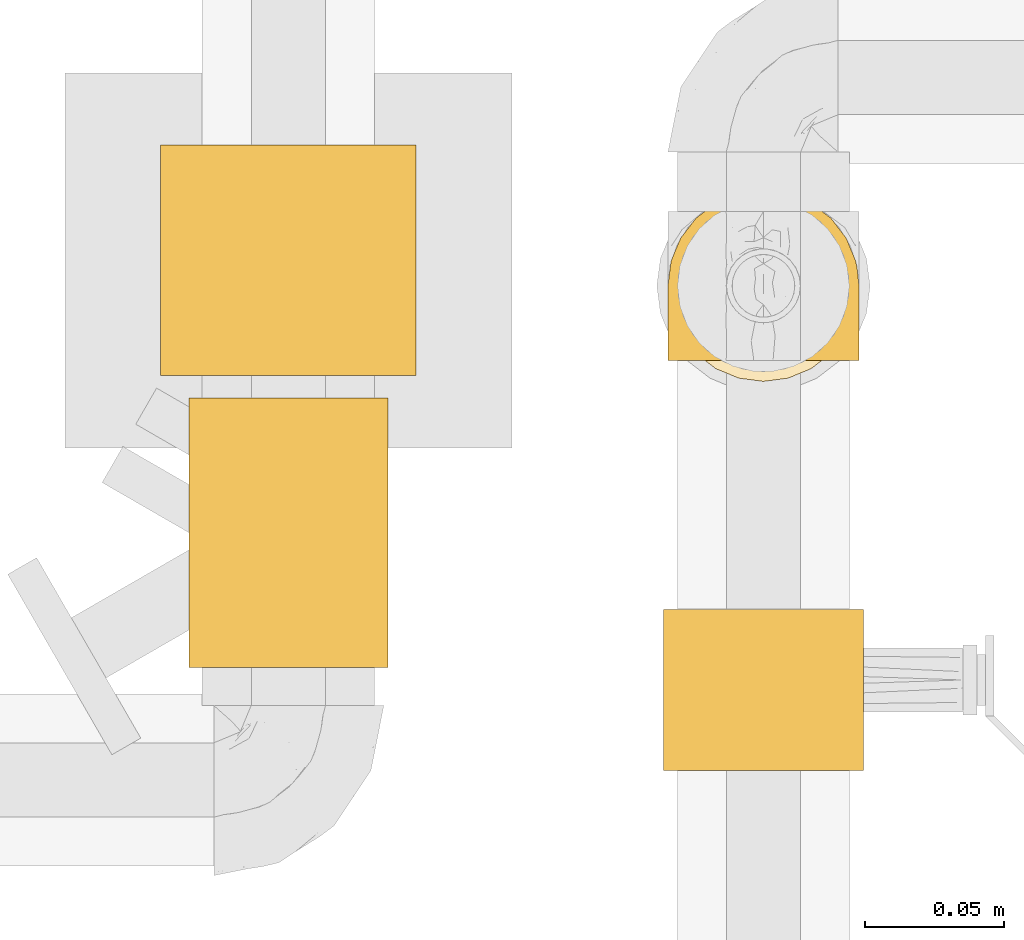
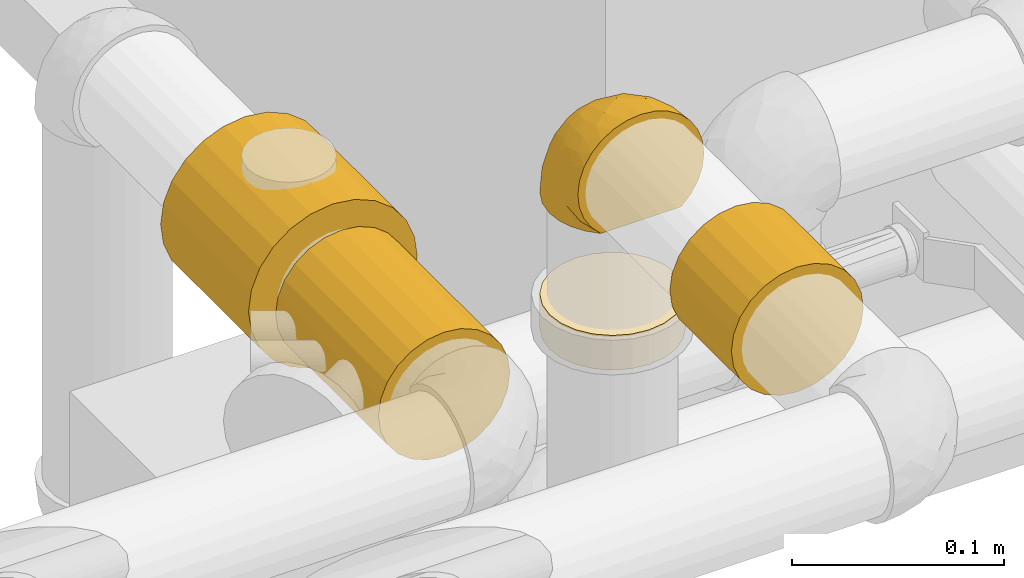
# One storey, part 4 of 13: 5 coverings.
"""IFC2X3 building model written with IfcOpenShell, lengths in millimetres."""

from ifc_helpers import new_model, entity, si_unit, converted_unit, derived_unit, direction, frame, origin_with_axes, place, context, subcontext, project, spatial, open_shell, surface_model, source, transform, mapped, element, save


model = new_model("IFC2X3")

# Units and contexts
model_context = context("Model", 3, precision=0.01, world=frame((0.0, 4.29681676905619e-09, 0.0)), true_north=direction((4.01073788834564e-13, 1.0)))
plan_context = context("Plan", 3, precision=0.01, world=frame((0.0, 4.29681676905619e-09, 0.0)), true_north=direction((4.01073788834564e-13, 1.0)))
body_context = subcontext(model_context, "Body", "Model", "MODEL_VIEW")
ifc_project = project(units=[converted_unit("PLANEANGLEUNIT", "DEGREE", entity("IfcPositiveLengthMeasure", 0.0174532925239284), si_unit("PLANEANGLEUNIT", "RADIAN"), dimensions=[0, 0, 0, 0, 0, 0, 0]), si_unit("AREAUNIT", "SQUARE_METRE"), si_unit("LENGTHUNIT", "METRE", prefix="MILLI"), si_unit("MASSUNIT", "GRAM", prefix="KILO"), si_unit("POWERUNIT", "WATT"), si_unit("PRESSUREUNIT", "PASCAL"), si_unit("FORCEUNIT", "NEWTON", prefix="KILO"), si_unit("ELECTRICVOLTAGEUNIT", "VOLT"), si_unit("ELECTRICCURRENTUNIT", "AMPERE"), si_unit("THERMODYNAMICTEMPERATUREUNIT", "DEGREE_CELSIUS"), si_unit("TIMEUNIT", "SECOND"), si_unit("VOLUMEUNIT", "CUBIC_METRE"), derived_unit("LINEARVELOCITYUNIT", [(si_unit("LENGTHUNIT", "METRE"), 1), (si_unit("TIMEUNIT", "SECOND"), -1)]), derived_unit("VOLUMETRICFLOWRATEUNIT", [(si_unit("VOLUMEUNIT", "CUBIC_METRE"), 1), (si_unit("TIMEUNIT", "SECOND"), -1)]), derived_unit("THERMALTRANSMITTANCEUNIT", [(si_unit("POWERUNIT", "WATT"), 1), (si_unit("THERMODYNAMICTEMPERATUREUNIT", "KELVIN"), -1), (si_unit("AREAUNIT", "SQUARE_METRE"), -1)]), derived_unit("SOUNDPRESSUREUNIT", [(si_unit("PRESSUREUNIT", "PASCAL"), 1)])], contexts=[model_context, plan_context])

# Site, building, storey
site_placement = place(None, frame((0.0, -4.29681676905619e-09, 0.0), z_axis=(0.0, 0.0, 1.0), x_axis=(1.0, 0.0, 0.0)))
site = spatial("IfcSite", under=ifc_project, at=site_placement, Name="ENGM", CompositionType="ELEMENT")
building_placement = place(site_placement, frame((0.0, 4.29681676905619e-09, 0.0), z_axis=(0.0, 0.0, 1.0), x_axis=(1.0, 0.0, 0.0)))
building = spatial("IfcBuilding", under=site, at=building_placement, Name="TI", CompositionType="ELEMENT")
storey_placement = place(building_placement, frame((0.0, 0.0, 210900.0), z_axis=(0.0, 0.0, 1.0), x_axis=(1.0, 0.0, 0.0)))
storey = spatial("IfcBuildingStorey", under=building, at=storey_placement, Name="Nivå F", CompositionType="ELEMENT", Elevation=210900.0)

# Coverings
shared_shape_1 = source(origin_with_axes(), body_context, "Body", "SurfaceModel", [
    surface_model("IfcShellBasedSurfaceModel", [(29.0, 34.77333, -9.31749), (29.0, 9.31749, -34.77333), (29.0, 18.0, -31.17691), (29.0, 25.45584, -25.45584), (29.0, -9.31749, -34.77333), (29.0, 31.17691, -18.0), (29.0, -36.0, 0.0), (29.0, -25.45584, -25.45584), (29.0, -18.0, -31.17691), (29.0, 0.0, -36.0), (29.0, -34.77333, -9.31749), (29.0, -31.17691, -18.0), (29.0, 36.0, 0.0), (29.0, 34.77333, 9.31749), (29.0, 31.17691, 18.0), (29.0, 0.0, 36.0), (29.0, 25.45584, 25.45584), (29.0, 18.0, 31.17691), (29.0, 9.31749, 34.77333), (29.0, -34.77333, 9.31749), (29.0, -18.0, 31.17691), (29.0, -31.17691, 18.0), (29.0, -9.31749, 34.77333), (29.0, -25.45584, 25.45584), (-29.0, 0.0, 36.0), (-29.0, 9.31749, 34.77333), (-29.0, 18.0, 31.17691), (-29.0, -34.77333, -9.31749), (-29.0, -9.31749, 34.77333), (-29.0, 31.17691, 18.0), (-29.0, 25.45584, 25.45584), (-29.0, -18.0, 31.17691), (-29.0, -31.17691, 18.0), (-29.0, -25.45584, 25.45584), (-29.0, -34.77333, 9.31749), (-29.0, -36.0, 0.0), (-29.0, 36.0, 0.0), (-29.0, 34.77333, 9.31749), (-29.0, 34.77333, -9.31749), (-29.0, 9.31749, -34.77333), (-29.0, 31.17691, -18.0), (-29.0, 18.0, -31.17691), (-29.0, 25.45584, -25.45584), (-29.0, -9.31749, -34.77333), (-29.0, -25.45584, -25.45584), (-29.0, -31.17691, -18.0), (-29.0, -18.0, -31.17691), (-29.0, 0.0, -36.0)], [open_shell([[[0, 1, 2]], [[0, 2, 3]], [[1, 0, 4]], [[0, 3, 5]], [[0, 6, 4]], [[4, 7, 8]], [[4, 9, 1]], [[7, 10, 11]], [[10, 7, 4]], [[4, 6, 10]], [[0, 12, 13]], [[6, 0, 14]], [[15, 14, 16]], [[17, 18, 15]], [[17, 15, 16]], [[6, 14, 15]], [[19, 20, 21]], [[22, 19, 6]], [[21, 20, 23]], [[20, 19, 22]], [[6, 15, 22]], [[14, 0, 13]], [[24, 25, 26]], [[27, 28, 24]], [[27, 24, 26]], [[29, 26, 30]], [[26, 29, 27]], [[31, 32, 33]], [[34, 31, 28]], [[31, 34, 32]], [[35, 34, 27]], [[27, 34, 28]], [[36, 29, 37]], [[27, 29, 38]], [[39, 38, 40]], [[41, 39, 40]], [[41, 40, 42]], [[43, 38, 39]], [[27, 44, 45]], [[44, 27, 43]], [[44, 43, 46]], [[27, 38, 43]], [[39, 47, 43]], [[38, 29, 36]], [[13, 37, 29]], [[14, 29, 30]], [[36, 37, 12]], [[12, 37, 13]], [[29, 14, 13]], [[30, 16, 14]], [[17, 26, 25]], [[18, 25, 24]], [[16, 26, 17]], [[17, 25, 18]], [[24, 15, 18]], [[26, 16, 30]], [[22, 28, 31]], [[20, 31, 33]], [[24, 28, 15]], [[15, 28, 22]], [[31, 20, 22]], [[33, 23, 20]], [[21, 32, 34]], [[19, 34, 35]], [[23, 32, 21]], [[21, 34, 19]], [[35, 6, 19]], [[32, 23, 33]], [[10, 27, 45]], [[11, 45, 44]], [[35, 27, 6]], [[6, 27, 10]], [[45, 11, 10]], [[44, 7, 11]], [[8, 46, 43]], [[4, 43, 47]], [[7, 46, 8]], [[8, 43, 4]], [[47, 9, 4]], [[46, 7, 44]], [[1, 39, 41]], [[2, 41, 42]], [[47, 39, 9]], [[9, 39, 1]], [[41, 2, 1]], [[42, 3, 2]], [[5, 40, 38]], [[0, 38, 36]], [[3, 40, 5]], [[5, 38, 0]], [[36, 12, 0]], [[40, 3, 42]]])]),
])
covering_1_placement = place(storey_placement, frame((610257.26164, 691274.46347, 2740.0), z_axis=(1.0, 0.0, 0.0), x_axis=(0.0, -1.0, 0.0)))
element("IfcCovering", 1, at=covering_1_placement, inside=storey, Name="BI10T - Cellegummi 18-32 mm kalde rør", PredefinedType="INSULATION", context=body_context, shape_type="MappedRepresentation", body=[
    mapped(shared_shape_1, transform((0.0, 0.0, 0.0), scale=1.0)),
])
shared_shape_2 = source(origin_with_axes(), body_context, "Body", "SurfaceModel", [
    surface_model("IfcShellBasedSurfaceModel", [(48.5, -35.85, 0.0), (48.5, -31.04701, 17.925), (48.5, -34.62844, 9.27866), (48.5, -25.34978, 25.34978), (48.5, -9.27866, 34.62844), (48.5, -17.925, 31.04701), (-48.5, -9.27866, 34.62844), (-48.5, -25.34978, 25.34978), (-48.5, -17.925, 31.04701), (-48.5, -31.04701, 17.925), (-48.5, -35.85, 0.0), (-48.5, -34.62844, 9.27866), (-48.5, 34.62844, -9.27866), (-48.5, 34.62844, 9.27866), (-48.5, 35.85, 0.0), (48.5, 34.62844, 9.27866), (-48.5, 31.04701, 17.925), (48.5, 31.04701, 17.925), (-48.5, 25.34978, 25.34978), (48.5, 35.85, 0.0), (48.5, 25.34978, 25.34978), (48.5, 17.925, 31.04701), (-48.5, 17.925, 31.04701), (-48.5, 9.27866, 34.62844), (48.5, 9.27866, 34.62844), (-48.5, 0.0, 35.85), (48.5, 0.0, 35.85), (48.5, -34.62844, -9.27866), (-48.5, -34.62844, -9.27866), (-48.5, -31.04701, -17.925), (48.5, -31.04701, -17.925), (-48.5, -25.34978, -25.34978), (48.5, -25.34978, -25.34978), (48.5, -17.925, -31.04701), (-48.5, -17.925, -31.04701), (-48.5, -9.27866, -34.62844), (48.5, -9.27866, -34.62844), (-48.5, 0.0, -35.85), (48.5, 0.0, -35.85), (48.5, 9.27866, -34.62844), (-48.5, 9.27866, -34.62844), (-48.5, 17.925, -31.04701), (48.5, 17.925, -31.04701), (-48.5, 25.34978, -25.34978), (48.5, 25.34978, -25.34978), (48.5, 31.04701, -17.925), (-48.5, 31.04701, -17.925), (48.5, 34.62844, -9.27866)], [open_shell([[[0, 1, 2]], [[3, 4, 5]], [[4, 3, 1]], [[6, 7, 8]], [[7, 6, 9]], [[9, 10, 11]], [[12, 13, 14]], [[15, 13, 16]], [[17, 16, 18]], [[14, 13, 19]], [[19, 13, 15]], [[16, 17, 15]], [[18, 20, 17]], [[21, 22, 23]], [[24, 23, 25]], [[20, 22, 21]], [[21, 23, 24]], [[25, 26, 24]], [[22, 20, 18]], [[4, 6, 8]], [[5, 8, 7]], [[25, 6, 26]], [[26, 6, 4]], [[8, 5, 4]], [[7, 3, 5]], [[1, 9, 11]], [[2, 11, 10]], [[3, 9, 1]], [[1, 11, 2]], [[10, 0, 2]], [[9, 3, 7]], [[27, 28, 29]], [[30, 29, 31]], [[10, 28, 0]], [[0, 28, 27]], [[29, 30, 27]], [[31, 32, 30]], [[33, 34, 35]], [[36, 35, 37]], [[32, 34, 33]], [[33, 35, 36]], [[37, 38, 36]], [[34, 32, 31]], [[39, 40, 41]], [[42, 41, 43]], [[37, 40, 38]], [[38, 40, 39]], [[41, 42, 39]], [[43, 44, 42]], [[45, 46, 12]], [[47, 12, 14]], [[44, 46, 45]], [[45, 12, 47]], [[14, 19, 47]], [[46, 44, 43]], [[47, 39, 45]], [[21, 24, 26]], [[25, 23, 22]], [[28, 13, 12]], [[39, 42, 44]], [[39, 44, 45]], [[43, 41, 40]], [[43, 40, 46]], [[28, 31, 29]], [[31, 28, 34]], [[39, 47, 36]], [[36, 38, 39]], [[47, 19, 15]], [[37, 35, 40]], [[32, 27, 30]], [[15, 27, 47]], [[47, 33, 36]], [[27, 32, 33]], [[27, 33, 47]], [[26, 15, 17]], [[21, 17, 20]], [[21, 26, 17]], [[26, 4, 27]], [[27, 1, 0]], [[4, 1, 27]], [[15, 26, 27]], [[25, 22, 16]], [[16, 13, 25]], [[16, 22, 18]], [[9, 25, 28]], [[9, 6, 25]], [[9, 28, 10]], [[28, 25, 13]], [[40, 12, 46]], [[34, 12, 40]], [[40, 35, 34]], [[34, 28, 12]]])]),
])
covering_2_placement = place(storey_placement, frame((610086.18538, 691331.05306, 2740.0), z_axis=(1.0, 0.0, 0.0), x_axis=(0.0, -1.0, 0.0)))
element("IfcCovering", 2, at=covering_2_placement, inside=storey, Name="BI10T - Cellegummi 18-32 mm kalde rør", PredefinedType="INSULATION", context=body_context, shape_type="MappedRepresentation", body=[
    mapped(shared_shape_2, transform((0.0, 0.0, 0.0), scale=1.0)),
])
shared_shape_3 = source(origin_with_axes(), body_context, "Body", "SurfaceModel", [
    surface_model("IfcShellBasedSurfaceModel", [(41.5, -39.83717, 23.0), (41.5, -11.90568, 44.43259), (41.5, -23.0, 39.83717), (41.5, -32.52691, 32.52691), (41.5, -44.43259, 11.90568), (41.5, -46.0, 0.0), (41.5, -39.83717, -23.0), (41.5, 44.43259, -11.90568), (41.5, 23.0, 39.83717), (41.5, 0.0, 46.0), (41.5, 11.90568, 44.43259), (41.5, 39.83717, 23.0), (41.5, 32.52691, 32.52691), (41.5, 46.0, 0.0), (41.5, 44.43259, 11.90568), (41.5, -23.0, -39.83717), (41.5, -32.52691, -32.52691), (41.5, -11.90568, -44.43259), (41.5, 0.0, -46.0), (41.5, 11.90568, -44.43259), (41.5, 32.52691, -32.52691), (41.5, 39.83717, -23.0), (41.5, 23.0, -39.83717), (41.5, -44.43259, -11.90568), (-41.5, 0.0, -46.0), (-41.5, -11.90568, -44.43259), (-41.5, -23.0, -39.83717), (-41.5, 11.90568, -44.43259), (-41.5, -39.83717, -23.0), (-41.5, -32.52691, -32.52691), (-41.5, -44.43259, -11.90568), (-41.5, 32.52691, -32.52691), (-41.5, 23.0, -39.83717), (-41.5, 44.43259, -11.90568), (-41.5, 39.83717, -23.0), (-41.5, 39.83717, 23.0), (-41.5, 46.0, 0.0), (-41.5, -46.0, 0.0), (-41.5, -44.43259, 11.90568), (-41.5, -39.83717, 23.0), (-41.5, 23.0, 39.83717), (-41.5, -23.0, 39.83717), (-41.5, -11.90568, 44.43259), (-41.5, -32.52691, 32.52691), (-41.5, 32.52691, 32.52691), (-41.5, 44.43259, 11.90568), (-41.5, 0.0, 46.0), (-41.5, 11.90568, 44.43259)], [open_shell([[[0, 1, 2]], [[0, 2, 3]], [[0, 4, 5]], [[1, 0, 6]], [[7, 8, 1]], [[9, 8, 10]], [[9, 1, 8]], [[8, 11, 12]], [[8, 7, 11]], [[11, 13, 14]], [[5, 6, 0]], [[7, 1, 6]], [[15, 6, 16]], [[15, 17, 18]], [[6, 15, 7]], [[18, 19, 15]], [[7, 20, 21]], [[13, 11, 7]], [[20, 19, 22]], [[19, 20, 7]], [[15, 19, 7]], [[5, 23, 6]], [[24, 25, 26]], [[27, 24, 26]], [[27, 26, 28]], [[28, 26, 29]], [[27, 28, 30]], [[27, 31, 32]], [[31, 27, 33]], [[31, 33, 34]], [[27, 30, 33]], [[33, 35, 36]], [[33, 30, 37]], [[37, 38, 39]], [[40, 37, 39]], [[41, 42, 39]], [[41, 39, 43]], [[40, 39, 42]], [[35, 40, 44]], [[45, 36, 35]], [[40, 46, 47]], [[35, 33, 40]], [[46, 40, 42]], [[33, 37, 40]], [[28, 29, 6]], [[5, 37, 23]], [[30, 6, 23]], [[6, 30, 28]], [[37, 30, 23]], [[29, 16, 6]], [[15, 26, 25]], [[17, 25, 24]], [[16, 26, 15]], [[15, 25, 17]], [[24, 18, 17]], [[26, 16, 29]], [[19, 27, 32]], [[22, 32, 31]], [[24, 27, 18]], [[18, 27, 19]], [[32, 22, 19]], [[31, 20, 22]], [[21, 34, 33]], [[7, 33, 36]], [[20, 34, 21]], [[21, 33, 7]], [[36, 13, 7]], [[34, 20, 31]], [[14, 45, 35]], [[11, 35, 44]], [[36, 45, 13]], [[13, 45, 14]], [[35, 11, 14]], [[44, 12, 11]], [[8, 40, 47]], [[10, 47, 46]], [[12, 40, 8]], [[8, 47, 10]], [[46, 9, 10]], [[40, 12, 44]], [[1, 42, 41]], [[2, 41, 43]], [[46, 42, 9]], [[9, 42, 1]], [[41, 2, 1]], [[43, 3, 2]], [[0, 39, 38]], [[4, 38, 37]], [[3, 39, 0]], [[0, 38, 4]], [[37, 5, 4]], [[39, 3, 43]]])]),
])
covering_3_placement = place(storey_placement, frame((610086.18538, 691429.10738, 2740.0), z_axis=(0.0, 0.0, -1.0), x_axis=(0.0, -1.0, 0.0)))
element("IfcCovering", 3, at=covering_3_placement, inside=storey, Name="BI10T - Cellegummi 18-32 mm kalde rør", PredefinedType="INSULATION", context=body_context, shape_type="MappedRepresentation", body=[
    mapped(shared_shape_3, transform((0.0, 0.0, 0.0), scale=1.0)),
])
shared_shape_4 = source(origin_with_axes(), body_context, "Body", "SurfaceModel", [
    surface_model("IfcShellBasedSurfaceModel", [(30.99573, 26.8, 14.92062), (21.4533, 26.8, 26.89082), (26.899, 26.8, 21.44304), (-14.69425, 26.8, 31.10368), (-26.583, 26.8, 21.83356), (-21.15177, 26.8, 27.12863), (-26.583, 26.8, -21.83356), (-14.70935, 26.8, -31.09655), (-21.16359, 26.8, -27.11941), (-7.53901, 26.8, -33.56372), (0.0, 26.8, -34.4), (7.65035, 26.8, -33.53852), (14.92062, 26.8, -30.99573), (-26.8, -8.90338, -33.22785), (-26.8, -17.2, -29.79127), (-26.8, -24.32447, -24.32447), (-26.8, -17.2, 29.79127), (-26.8, -29.79127, 17.2), (-26.8, -24.32447, 24.32447), (-26.8, 26.583, -21.83356), (-26.8, 26.583, 21.83356), (-26.64656, 26.64656, 21.83356), (-26.64656, 26.64656, -21.83356), (-3.59052, 13.4, -34.4), (-14.33755, 14.33755, -33.15375), (-26.8, 14.7018, -31.10012), (-20.98278, 20.24865, -29.29104), (-26.8, 0.0, -34.4), (-26.8, 7.53379, -33.56489), (-13.4, 3.59052, -34.4), (-26.8, 21.15599, -27.12534), (23.43181, -5.85668, -9.31772), (30.59211, 12.00691, -11.36629), (29.74143, 3.37977, 0.0), (-17.35379, -5.60847, -33.68915), (-10.72157, -3.05952, -33.65653), (-2.19496, -13.46149, -27.70964), (-5.90325, -23.09189, -20.94139), (-14.44362, -19.31464, -27.29136), (-11.50632, -10.12221, -31.78146), (-19.86027, -12.55716, -31.78146), (14.5039, 8.69712, -29.13049), (17.47419, 18.2255, -29.13049), (22.70218, 14.0418, -24.32911), (-8.49526, 8.49526, -34.4), (-1.73573, 4.43438, -33.72277), (-1.40625, 21.55179, -34.4), (21.13117, -4.93531, -15.5496), (-8.95552, -31.11498, -6.38768), (-26.8, -33.22785, -8.90338), (-11.56328, -29.76527, -13.16431), (33.53665, 26.8, -7.65854), (31.96725, 14.56973, 0.0), (-17.29059, -26.4489, -20.94139), (-26.8, -29.79127, -17.2), (13.00945, -12.79913, -17.94172), (17.64372, -3.70839, -21.17899), (4.67119, 7.67803, -32.90681), (10.14945, 17.27713, -32.47124), (26.89082, 26.8, -21.4533), (30.99072, 26.8, -14.93103), (28.1038, 16.16713, -18.30729), (21.44304, 26.8, -26.899), (5.75988, -4.42453, -29.1208), (-1.4374, -2.65193, -32.21392), (20.41295, 4.88172, -23.35949), (24.42026, 4.35073, -18.30729), (16.40522, -14.15163, -10.5905), (-1.3824, -25.73418, -13.68663), (1.8264, -26.29935, -7.71275), (8.10398, -20.63529, -12.38525), (11.69208, -20.10273, -5.98463), (16.47493, -16.47493, 0.0), (23.10818, -6.54758, 0.0), (-14.56973, -31.96725, 0.0), (4.03594, -17.21397, -21.39036), (9.62885, -9.0633, -24.32911), (-21.55179, 1.40625, -34.4), (13.92099, -0.05311, -26.46374), (9.4576, 2.58417, -30.01827), (34.4, 26.8, 0.0), (-3.37977, -29.74143, 0.0), (-26.8, -34.4, 0.0), (6.54758, -23.10818, 0.0), (-16.40302, -11.7882, 31.78146), (-26.8, -8.90338, 33.22785), (-8.96499, -31.08424, 6.55564), (10.63139, -19.08757, 11.50781), (23.44486, -5.83859, 9.31385), (-26.8, -33.22785, 8.90338), (22.71205, 14.04293, 24.31983), (28.11122, 16.17091, 18.29685), (-8.34799, -17.2314, 27.29136), (-13.16926, -25.54575, 20.94139), (1.60724, -19.88713, 20.19204), (14.51664, 8.70018, 29.12392), (17.4853, 18.22796, 29.12392), (10.15899, 17.27639, 32.46794), (17.02293, -8.95279, 17.25897), (-13.98179, -4.14591, 33.74209), (-13.4, 3.59052, 34.4), (-20.1, 1.79526, 34.4), (7.65854, 26.8, 33.53665), (-1.40625, 21.55179, 34.4), (-16.33213, -31.39885, 11.74535), (0.0, 26.8, 34.4), (-18.40196, -20.19695, 27.29136), (14.93103, 26.8, 30.99072), (2.37805, -25.95313, 7.88237), (-5.56785, -27.79838, 13.16431), (30.59671, 12.01158, 11.35688), (1.61546, -9.41417, 28.52205), (-9.49504, -8.67307, 31.98214), (24.43036, 4.35742, 18.29685), (33.53852, 26.8, 7.65035), (-8.61019, -0.7535, 33.83371), (-2.54483, 2.9265, 33.63096), (-3.59052, 13.4, 34.4), (-8.49526, 8.49526, 34.4), (18.33244, 2.77456, 24.3201), (4.67405, 7.66653, 32.90424), (-20.5196, -5.89205, 33.78227), (9.64914, -9.05591, 24.31984), (7.49925, -1.10027, 29.66678), (2.2383, -14.80321, 24.70771), (-26.8, 0.0, 34.4), (-3.35568, -4.38407, 32.15869), (-26.8, 7.53379, 33.56489), (-14.33836, 14.33836, 33.15344), (-26.8, 14.7018, 31.10012), (-20.24021, 20.9835, 29.29463), (-26.8, 21.15599, 27.12534), (-7.52438, 26.8, 33.567)], [open_shell([[[0, 1, 2]], [[3, 4, 5]], [[6, 7, 8]], [[7, 6, 9]], [[10, 9, 6]], [[10, 6, 11]], [[6, 12, 11]], [[13, 14, 15]], [[16, 17, 18]], [[19, 20, 21]], [[22, 19, 21]], [[4, 6, 21]], [[22, 21, 6]], [[23, 24, 9]], [[25, 26, 24]], [[27, 28, 29]], [[29, 28, 24]], [[25, 30, 26]], [[30, 19, 22]], [[22, 6, 8]], [[24, 26, 7]], [[24, 23, 29]], [[7, 9, 24]], [[9, 10, 23]], [[7, 26, 8]], [[28, 25, 24]], [[22, 8, 26]], [[22, 26, 30]], [[31, 32, 33]], [[34, 29, 35]], [[36, 37, 38]], [[39, 40, 34]], [[41, 42, 43]], [[44, 45, 35]], [[46, 10, 11]], [[32, 31, 47]], [[48, 49, 50]], [[32, 51, 52]], [[53, 54, 15]], [[14, 40, 38]], [[14, 38, 15]], [[54, 53, 50]], [[40, 14, 13]], [[55, 56, 47]], [[57, 23, 58]], [[46, 11, 58]], [[59, 60, 61]], [[43, 62, 59]], [[58, 23, 46]], [[58, 11, 12]], [[42, 58, 12]], [[63, 36, 64]], [[58, 41, 57]], [[65, 66, 56]], [[65, 43, 66]], [[55, 47, 67]], [[48, 68, 69]], [[32, 60, 51]], [[33, 32, 52]], [[66, 61, 32]], [[54, 50, 49]], [[61, 43, 59]], [[70, 71, 69]], [[62, 42, 12]], [[68, 70, 69]], [[72, 31, 73]], [[49, 48, 74]], [[55, 75, 76]], [[35, 45, 64]], [[36, 38, 39]], [[53, 38, 37]], [[13, 27, 77]], [[41, 78, 79]], [[57, 64, 45]], [[51, 80, 52]], [[32, 61, 60]], [[43, 61, 66]], [[43, 42, 62]], [[58, 42, 41]], [[64, 36, 39]], [[36, 76, 75]], [[35, 39, 34]], [[78, 63, 79]], [[74, 48, 81]], [[74, 82, 49]], [[71, 72, 83]], [[83, 81, 69]], [[48, 69, 81]], [[67, 71, 70]], [[83, 69, 71]], [[68, 48, 50]], [[50, 37, 68]], [[75, 68, 37]], [[55, 67, 70]], [[67, 31, 72]], [[70, 68, 75]], [[56, 55, 76]], [[70, 75, 55]], [[36, 75, 37]], [[78, 56, 76]], [[47, 56, 66]], [[63, 78, 76]], [[65, 41, 43]], [[36, 63, 76]], [[79, 64, 57]], [[32, 47, 66]], [[47, 31, 67]], [[56, 78, 65]], [[41, 65, 78]], [[64, 79, 63]], [[57, 45, 23]], [[57, 41, 79]], [[38, 53, 15]], [[50, 53, 37]], [[34, 13, 77]], [[38, 40, 39]], [[13, 34, 40]], [[29, 34, 77]], [[44, 35, 29]], [[64, 39, 35]], [[31, 33, 73]], [[72, 71, 67]], [[23, 45, 44]], [[16, 84, 85]], [[81, 86, 74]], [[87, 72, 88]], [[86, 89, 74]], [[90, 91, 2]], [[92, 93, 94]], [[95, 96, 97]], [[98, 94, 87]], [[99, 100, 101]], [[102, 103, 97]], [[104, 93, 17]], [[102, 105, 103]], [[18, 106, 16]], [[16, 106, 84]], [[107, 102, 97]], [[108, 87, 109]], [[88, 33, 110]], [[92, 111, 112]], [[113, 91, 90]], [[1, 90, 2]], [[89, 86, 104]], [[110, 0, 91]], [[110, 52, 114]], [[1, 107, 96]], [[99, 115, 100]], [[116, 117, 118]], [[119, 113, 90]], [[95, 97, 120]], [[97, 117, 120]], [[0, 110, 114]], [[17, 93, 18]], [[96, 90, 1]], [[88, 110, 113]], [[119, 90, 95]], [[88, 98, 87]], [[0, 2, 91]], [[88, 72, 73]], [[117, 97, 103]], [[84, 99, 121]], [[122, 123, 111]], [[123, 95, 120]], [[94, 93, 109]], [[106, 93, 92]], [[118, 115, 116]], [[123, 122, 119]], [[87, 94, 109]], [[124, 122, 111]], [[108, 109, 86]], [[88, 113, 98]], [[52, 110, 33]], [[52, 80, 114]], [[85, 121, 125]], [[110, 91, 113]], [[97, 96, 107]], [[90, 96, 95]], [[116, 123, 120]], [[115, 118, 100]], [[111, 123, 126]], [[89, 82, 74]], [[83, 108, 81]], [[86, 109, 104]], [[87, 83, 72]], [[81, 108, 86]], [[83, 87, 108]], [[93, 104, 109]], [[17, 89, 104]], [[121, 99, 101]], [[112, 99, 84]], [[119, 98, 113]], [[94, 98, 122]], [[125, 121, 101]], [[84, 121, 85]], [[123, 119, 95]], [[98, 119, 122]], [[112, 111, 126]], [[124, 92, 94]], [[93, 106, 18]], [[84, 106, 92]], [[92, 112, 84]], [[115, 112, 126]], [[112, 115, 99]], [[115, 126, 116]], [[123, 116, 126]], [[117, 116, 120]], [[92, 124, 111]], [[94, 122, 124]], [[73, 33, 88]], [[127, 125, 100]], [[127, 128, 129]], [[129, 128, 130]], [[20, 131, 21]], [[117, 128, 100]], [[117, 105, 132]], [[127, 100, 128]], [[130, 21, 131]], [[130, 128, 3]], [[5, 4, 21]], [[21, 130, 5]], [[129, 130, 131]], [[132, 3, 128]], [[117, 132, 128]], [[3, 5, 130]], [[59, 62, 12]], [[6, 59, 12]], [[80, 59, 6]], [[20, 19, 131]], [[19, 30, 28]], [[28, 30, 25]], [[131, 127, 129]], [[80, 51, 60]], [[80, 6, 4]], [[105, 107, 1]], [[0, 114, 1]], [[3, 1, 114]], [[105, 1, 132]], [[105, 102, 107]], [[1, 3, 132]], [[114, 4, 3]], [[114, 80, 4]], [[80, 60, 59]], [[28, 27, 19]], [[125, 19, 13]], [[131, 19, 127]], [[125, 127, 19]], [[19, 27, 13]], [[15, 54, 49]], [[15, 49, 13]], [[125, 49, 82]], [[85, 125, 16]], [[16, 89, 17]], [[16, 125, 89]], [[89, 125, 82]], [[49, 125, 13]]])]),
])
covering_4_placement = place(storey_placement, frame((610257.26164, 691419.90405, 2740.0), z_axis=(1.0, 0.0, 0.0), x_axis=(0.0, 0.0, 1.0)))
element("IfcCovering", 4, at=covering_4_placement, inside=storey, Name="BI10T - Cellegummi 18-32 mm kalde rør", PredefinedType="INSULATION", context=body_context, shape_type="MappedRepresentation", body=[
    mapped(shared_shape_4, transform((0.0, 0.0, 0.0), scale=1.0)),
])
shared_shape_5 = source(origin_with_axes(), body_context, "Body", "SurfaceModel", [
    surface_model("IfcShellBasedSurfaceModel", [(20.0, 29.79127, -17.2), (20.0, 17.2, -29.79127), (20.0, 24.32447, -24.32447), (20.0, 33.22785, 8.90338), (20.0, 29.79127, 17.2), (20.0, 24.32447, 24.32447), (20.0, 0.0, 34.4), (20.0, -8.90338, 33.22785), (20.0, -24.32447, 24.32447), (20.0, -17.2, 29.79127), (0.0, -8.90338, 33.22785), (0.0, -24.32447, 24.32447), (0.0, -17.2, 29.79127), (0.0, 17.2, -29.79127), (0.0, 29.79127, -17.2), (0.0, 24.32447, -24.32447), (0.0, 34.4, 0.0), (0.0, 33.22785, 8.90338), (0.0, 29.79127, 17.2), (20.0, 34.4, 0.0), (0.0, 24.32447, 24.32447), (20.0, 17.2, 29.79127), (0.0, 17.2, 29.79127), (20.0, 8.90338, 33.22785), (0.0, 0.0, 34.4), (20.0, -29.79127, 17.2), (0.0, -29.79127, 17.2), (20.0, -33.22785, 8.90338), (0.0, -33.22785, 8.90338), (20.0, -34.4, 0.0), (0.0, -34.4, 0.0), (20.0, -33.22785, -8.90338), (0.0, -33.22785, -8.90338), (20.0, -29.79127, -17.2), (0.0, -29.79127, -17.2), (20.0, -24.32447, -24.32447), (0.0, -24.32447, -24.32447), (20.0, -17.2, -29.79127), (0.0, -17.2, -29.79127), (20.0, -8.90338, -33.22785), (0.0, -8.90338, -33.22785), (20.0, 0.0, -34.4), (0.0, 0.0, -34.4), (20.0, 8.90338, -33.22785), (0.0, 8.90338, -33.22785), (20.0, 33.22785, -8.90338), (0.0, 33.22785, -8.90338), (0.0, 8.90338, 33.22785)], [open_shell([[[0, 1, 2]], [[3, 4, 5]], [[3, 5, 6]], [[3, 6, 7]], [[8, 7, 9]], [[10, 11, 12]], [[13, 14, 15]], [[3, 16, 17]], [[4, 17, 18]], [[19, 16, 3]], [[4, 3, 17]], [[5, 4, 18]], [[18, 20, 5]], [[21, 20, 22]], [[21, 22, 23]], [[20, 21, 5]], [[7, 24, 10]], [[9, 10, 12]], [[6, 24, 7]], [[9, 7, 10]], [[8, 9, 12]], [[12, 11, 8]], [[25, 11, 26]], [[27, 26, 28]], [[25, 26, 27]], [[29, 27, 28]], [[30, 29, 28]], [[11, 25, 8]], [[31, 30, 32]], [[33, 32, 34]], [[29, 30, 31]], [[33, 31, 32]], [[35, 33, 34]], [[34, 36, 35]], [[37, 36, 38]], [[39, 38, 40]], [[37, 38, 39]], [[41, 39, 40]], [[42, 41, 40]], [[36, 37, 35]], [[43, 42, 44]], [[1, 44, 13]], [[41, 42, 43]], [[1, 43, 44]], [[2, 1, 13]], [[13, 15, 2]], [[0, 15, 14]], [[45, 14, 46]], [[0, 14, 45]], [[19, 45, 46]], [[16, 19, 46]], [[15, 0, 2]], [[0, 43, 1]], [[43, 45, 35]], [[45, 43, 0]], [[35, 45, 19]], [[39, 35, 37]], [[39, 41, 43]], [[35, 31, 33]], [[39, 43, 35]], [[19, 31, 35]], [[19, 3, 31]], [[21, 23, 6]], [[21, 6, 5]], [[29, 25, 27]], [[25, 29, 7]], [[7, 8, 25]], [[31, 7, 29]], [[7, 31, 3]], [[24, 47, 22]], [[24, 22, 20]], [[20, 18, 17]], [[20, 17, 24]], [[24, 17, 30]], [[11, 10, 26]], [[26, 30, 28]], [[30, 26, 10]], [[10, 24, 30]], [[17, 16, 30]], [[46, 38, 16]], [[14, 40, 46]], [[13, 44, 14]], [[44, 40, 14]], [[32, 36, 34]], [[32, 16, 36]], [[46, 40, 38]], [[38, 36, 16]], [[40, 44, 42]], [[16, 32, 30]], [[47, 6, 23]], [[6, 47, 24]], [[22, 47, 23]]])]),
])
covering_5_placement = place(storey_placement, frame((610257.26164, 691419.90405, 2654.79999999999), z_axis=(0.0, 1.0, 0.0), x_axis=(0.0, 0.0, -1.0)))
element("IfcCovering", 5, at=covering_5_placement, inside=storey, Name="BI10T - Cellegummi 18-32 mm kalde rør", PredefinedType="INSULATION", context=body_context, shape_type="MappedRepresentation", body=[
    mapped(shared_shape_5, transform((0.0, 0.0, 0.0), scale=1.0)),
])

save(model, "model.ifc")
